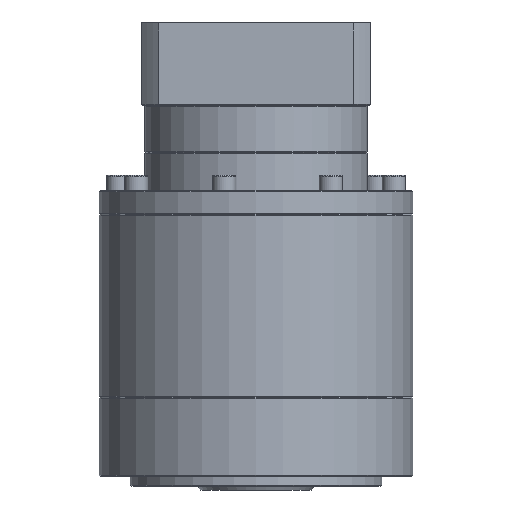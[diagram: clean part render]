
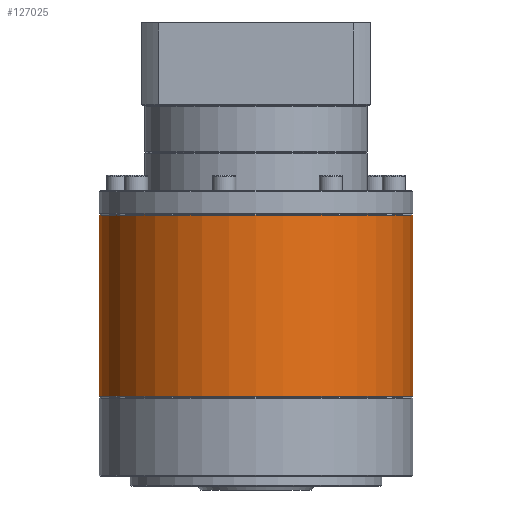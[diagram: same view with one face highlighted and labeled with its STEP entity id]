
A CAD part, front view. The second image highlights one B-rep face of the part: STEP entity #127025.
In plain terms, the highlighted cylindrical face has radius 81 mm (diameter 162 mm), a partial arc.
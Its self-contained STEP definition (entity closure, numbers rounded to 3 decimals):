
#5740 = CIRCLE ( 'NONE', #131706, 81. ) ;
#8706 = FACE_OUTER_BOUND ( 'NONE', #40850, .T. ) ;
#11432 = EDGE_CURVE ( 'NONE', #123589, #13302, #5740, .T. ) ;
#12058 = CARTESIAN_POINT ( 'NONE',  ( -225.798, 115.756, -72.979 ) ) ;
#12374 = CIRCLE ( 'NONE', #54464, 81. ) ;
#13302 = VERTEX_POINT ( 'NONE', #112437 ) ;
#19470 = CARTESIAN_POINT ( 'NONE',  ( -225.798, 115.756, -73.479 ) ) ;
#21100 = ORIENTED_EDGE ( 'NONE', *, *, #128568, .F. ) ;
#24009 = DIRECTION ( 'NONE',  ( 0., 0., -1. ) ) ;
#28903 = ORIENTED_EDGE ( 'NONE', *, *, #11432, .T. ) ;
#30635 = LINE ( 'NONE', #12058, #38190 ) ;
#30982 = AXIS2_PLACEMENT_3D ( 'NONE', #118823, #107222, #45292 ) ;
#33644 = DIRECTION ( 'NONE',  ( 0., 0., -1. ) ) ;
#38190 = VECTOR ( 'NONE', #24009, 1000. ) ;
#40850 = EDGE_LOOP ( 'NONE', ( #21100, #88293, #57870, #28903 ) ) ;
#43448 = VECTOR ( 'NONE', #110893, 1000. ) ;
#45292 = DIRECTION ( 'NONE',  ( -1., 0., 0. ) ) ;
#54464 = AXIS2_PLACEMENT_3D ( 'NONE', #57244, #33644, #117700 ) ;
#54788 = VERTEX_POINT ( 'NONE', #19470 ) ;
#57244 = CARTESIAN_POINT ( 'NONE',  ( -144.798, 115.756, -73.479 ) ) ;
#57870 = ORIENTED_EDGE ( 'NONE', *, *, #131390, .T. ) ;
#61870 = DIRECTION ( 'NONE',  ( -1., 0., 0. ) ) ;
#65322 = CARTESIAN_POINT ( 'NONE',  ( -225.798, 115.756, -166.979 ) ) ;
#74168 = CARTESIAN_POINT ( 'NONE',  ( -63.798, 115.756, -72.979 ) ) ;
#75449 = LINE ( 'NONE', #74168, #43448 ) ;
#88293 = ORIENTED_EDGE ( 'NONE', *, *, #122510, .T. ) ;
#96287 = CARTESIAN_POINT ( 'NONE',  ( -63.798, 115.756, -73.479 ) ) ;
#97619 = CARTESIAN_POINT ( 'NONE',  ( -144.798, 115.756, -166.979 ) ) ;
#98909 = CYLINDRICAL_SURFACE ( 'NONE', #30982, 81. ) ;
#107222 = DIRECTION ( 'NONE',  ( 0., 0., -1. ) ) ;
#110893 = DIRECTION ( 'NONE',  ( 0., 0., -1. ) ) ;
#112437 = CARTESIAN_POINT ( 'NONE',  ( -63.798, 115.756, -166.979 ) ) ;
#117700 = DIRECTION ( 'NONE',  ( -1., 0., 0. ) ) ;
#118823 = CARTESIAN_POINT ( 'NONE',  ( -144.798, 115.756, -72.979 ) ) ;
#122510 = EDGE_CURVE ( 'NONE', #140373, #54788, #12374, .T. ) ;
#123589 = VERTEX_POINT ( 'NONE', #65322 ) ;
#127025 = ADVANCED_FACE ( 'NONE', ( #8706 ), #98909, .T. ) ;
#128568 = EDGE_CURVE ( 'NONE', #140373, #13302, #75449, .T. ) ;
#131390 = EDGE_CURVE ( 'NONE', #54788, #123589, #30635, .T. ) ;
#131706 = AXIS2_PLACEMENT_3D ( 'NONE', #97619, #133821, #61870 ) ;
#133821 = DIRECTION ( 'NONE',  ( 0., 0., 1. ) ) ;
#140373 = VERTEX_POINT ( 'NONE', #96287 ) ;
